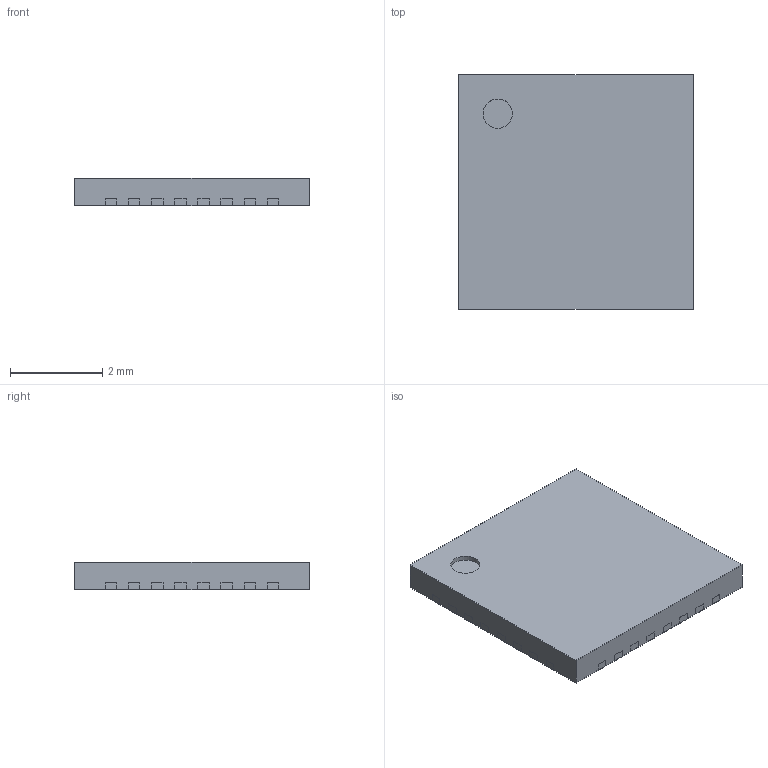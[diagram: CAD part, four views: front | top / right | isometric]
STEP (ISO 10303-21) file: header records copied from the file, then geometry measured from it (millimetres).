
FILE_DESCRIPTION(('Open CASCADE Model'),'2;1');
FILE_NAME('Open CASCADE Shape Model','2024-04-17T16:45:52',('Author'),( 'Open CASCADE'),'Open CASCADE STEP processor 7.5','Open CASCADE 7.5' ,'Unknown');
FILE_SCHEMA(('AUTOMOTIVE_DESIGN { 1 0 10303 214 1 1 1 1 }'));
Length unit declared in the file: millimetre
Products named in the file (7): QFN50P500X500X60_HS-33N.step; Open CASCADE STEP translator 7.5 21.1; Body; Open CASCADE STEP translator 7.5 21.2.1; Thermal Shape; Pin Shape; Open CASCADE STEP translator 7.5 21.4.1
Assembly tree (37 placements, depth 3):
  QFN50P500X500X60_HS-33N.step
    Open CASCADE STEP translator 7.5 21.1
    Body
      Open CASCADE STEP translator 7.5 21.2.1
    Thermal Shape
    Pin Shape  x32
      Open CASCADE STEP translator 7.5 21.4.1
Bounding box: 5.1 x 5.1 x 0.6 mm (x, y, z)
Volume: 15.6 mm3; surface area: 97.7 mm2
Topology: 34 solids, 35 shells, 464 faces, 927 edges, 533 vertices
Faces by surface type: plane 463, cylinder 1
Full cylindrical faces by diameter (mm): 0.637 x1
Entity records: 1154 total; most frequent: DIRECTION 198, CARTESIAN_POINT 164, ORIENTED_EDGE 117, AXIS2_PLACEMENT_3D 71, EDGE_CURVE 59, LINE 56, VECTOR 56, PRODUCT_DEFINITION_SHAPE 44
